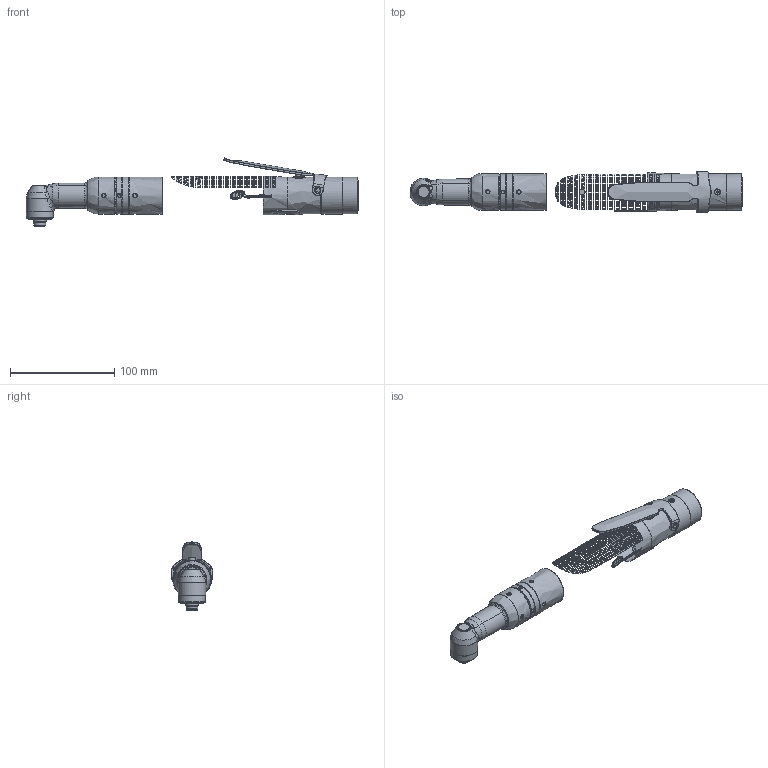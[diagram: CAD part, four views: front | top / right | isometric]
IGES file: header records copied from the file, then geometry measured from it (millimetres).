
Global section: file name: G:\Eng_Shared\PF\SURF MODELS\QE-QM\QE\QE2\Angle\16610271_A.igs; native system: NX V4.0; preprocessor: UGS NX IGES V4.0; date: 20090224.100416; units: millimetre
Bounding box: 318.5 x 39.38 x 65.29 mm (x, y, z)
Surface area: 41663.3 mm2 (no closed solid volume)
Topology: 0 solids, 0 shells, 1149 faces, 7369 edges, 7155 vertices
Faces by surface type: bspline 1149
